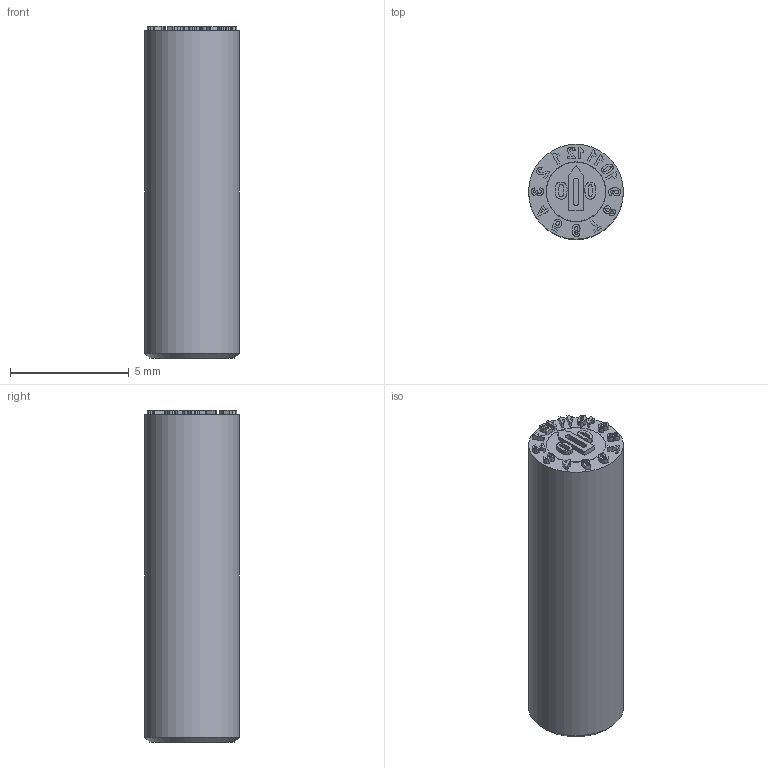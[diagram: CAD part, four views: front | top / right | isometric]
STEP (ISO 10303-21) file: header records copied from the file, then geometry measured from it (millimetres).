
FILE_DESCRIPTION(/* description */ (''),/* implementation_level */ '2;1');
FILE_NAME(/* name */ 'D6000-MY4.step',/* time_stamp */ '2025-11-25T15:14:33+01:00',/* author */ (''),/* organization */ (''),/* preprocessor_version */ 'ST-DEVELOPER v20.1',/* originating_system */ 'Autodesk Translation Framework v14.21.0.0',/* authorisation */ '');
FILE_SCHEMA (('AUTOMOTIVE_DESIGN { 1 0 10303 214 3 1 1 }'));
Length unit declared in the file: millimetre
Products named in the file (1): D6000-MY4
Bounding box: 4 x 4 x 14 mm (x, y, z)
Volume: 164.2 mm3; surface area: 239.2 mm2
Topology: 1 solids, 1 shells, 358 faces, 979 edges, 652 vertices
Faces by surface type: bspline 242, plane 107, cylinder 6, cone 3
Full cylindrical faces by diameter (mm): 1.923 x1, 2.5 x1, 2.52 x1, 4 x1
Entity records: 13550 total; most frequent: CARTESIAN_POINT 6103, ORIENTED_EDGE 1956, EDGE_CURVE 978, DIRECTION 743, VERTEX_POINT 652, B_SPLINE_CURVE_WITH_KNOTS 484, LINE 479, VECTOR 479
